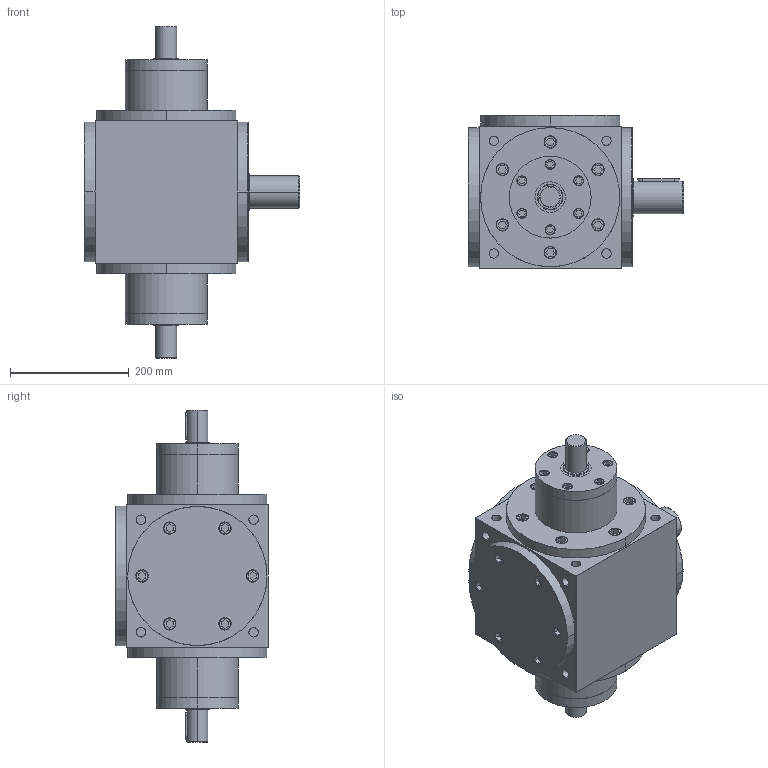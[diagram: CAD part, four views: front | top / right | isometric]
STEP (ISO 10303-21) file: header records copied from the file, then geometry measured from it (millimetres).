
FILE_DESCRIPTION (( 'STEP AP203' ), '1' );
FILE_NAME ('VSAF24-1£º1.5-L.step', '2018-07-16T00:50:31', ( 'IT Division' ), ( 'IT' ), 'SwSTEP 2.0', 'SolidWorks 2016', '' );
FILE_SCHEMA (( 'CONFIG_CONTROL_DESIGN' ));
Length unit declared in the file: millimetre
Products named in the file (1): VSAF24-1：1.5-L
Bounding box: 363 x 258 x 560 mm (x, y, z)
Volume: 20460523.3 mm3; surface area: 613847.6 mm2
Topology: 2 solids, 2 shells, 885 faces, 1975 edges, 1230 vertices
Faces by surface type: plane 435, cylinder 336, torus 94, cone 12, sphere 8
Entity records: 24716 total; most frequent: CARTESIAN_POINT 4697, DIRECTION 4367, ORIENTED_EDGE 3934, EDGE_CURVE 1967, AXIS2_PLACEMENT_3D 1648, VERTEX_POINT 1230, LINE 1071, VECTOR 1071
